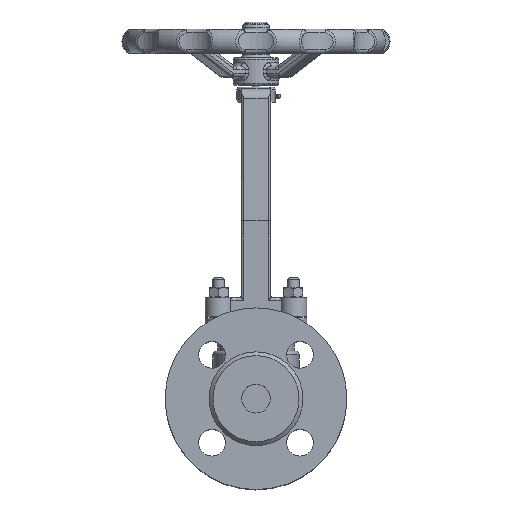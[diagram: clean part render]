
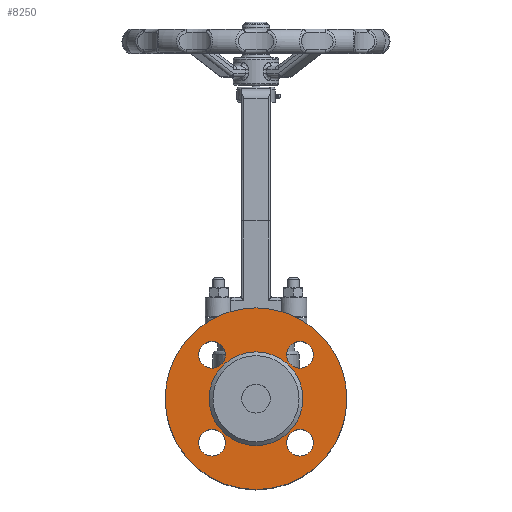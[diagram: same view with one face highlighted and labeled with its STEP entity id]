
A CAD part, top view. The second image highlights one B-rep face of the part: STEP entity #8250.
In plain terms, the highlighted planar face has unit normal (0, 0, 1).
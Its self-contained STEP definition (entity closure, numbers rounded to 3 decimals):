
#8250=ADVANCED_FACE('',(#15998,#16000,#16002,#16004,#16006,#16008),#16010,.F.);
#15998=FACE_BOUND('',#15999,.T.);
#15999=EDGE_LOOP('',(#22570));
#16000=FACE_BOUND('',#16001,.T.);
#16001=EDGE_LOOP('',(#22571));
#16002=FACE_BOUND('',#16003,.T.);
#16003=EDGE_LOOP('',(#22572));
#16004=FACE_BOUND('',#16005,.T.);
#16005=EDGE_LOOP('',(#22573));
#16006=FACE_BOUND('',#16007,.T.);
#16007=EDGE_LOOP('',(#22574));
#16008=FACE_BOUND('',#16009,.T.);
#16009=EDGE_LOOP('',(#22575));
#16010=PLANE('',#16011);
#16011=AXIS2_PLACEMENT_3D('',#16012,#16013,#16014);
#16012=CARTESIAN_POINT('',(0.,0.,63.));
#16013=DIRECTION('',(0.,0.,-1.));
#16014=DIRECTION('',(0.,1.,0.));
#22570=ORIENTED_EDGE('',*,*,#24923,.T.);
#22571=ORIENTED_EDGE('',*,*,#24924,.T.);
#22572=ORIENTED_EDGE('',*,*,#24925,.T.);
#22573=ORIENTED_EDGE('',*,*,#25053,.F.);
#22574=ORIENTED_EDGE('',*,*,#24926,.T.);
#22575=ORIENTED_EDGE('',*,*,#24927,.T.);
#24923=EDGE_CURVE('',#28651,#28651,#28652,.T.);
#24924=EDGE_CURVE('',#28653,#28653,#28654,.T.);
#24925=EDGE_CURVE('',#28655,#28655,#28656,.T.);
#24926=EDGE_CURVE('',#28657,#28657,#28658,.T.);
#24927=EDGE_CURVE('',#28659,#28659,#28660,.T.);
#25053=EDGE_CURVE('',#28797,#28797,#28798,.T.);
#28651=VERTEX_POINT('',#57616);
#28652=CIRCLE('',#57617,47.5);
#28653=VERTEX_POINT('',#57621);
#28654=CIRCLE('',#57622,7.);
#28655=VERTEX_POINT('',#57626);
#28656=CIRCLE('',#57627,7.);
#28657=VERTEX_POINT('',#57631);
#28658=CIRCLE('',#57632,7.);
#28659=VERTEX_POINT('',#57636);
#28660=CIRCLE('',#57637,7.);
#28797=VERTEX_POINT('',#66606);
#28798=CIRCLE('',#66607,24.5);
#57616=CARTESIAN_POINT('',(0.,47.5,63.));
#57617=AXIS2_PLACEMENT_3D('',#57618,#57619,#57620);
#57618=CARTESIAN_POINT('',(0.,0.,63.));
#57619=DIRECTION('',(0.,0.,1.));
#57620=DIRECTION('',(0.,1.,0.));
#57621=CARTESIAN_POINT('',(22.981,-15.981,63.));
#57622=AXIS2_PLACEMENT_3D('',#57623,#57624,#57625);
#57623=CARTESIAN_POINT('',(22.981,-22.981,63.));
#57624=DIRECTION('',(0.,0.,-1.));
#57625=DIRECTION('',(0.,1.,0.));
#57626=CARTESIAN_POINT('',(-22.981,15.981,63.));
#57627=AXIS2_PLACEMENT_3D('',#57628,#57629,#57630);
#57628=CARTESIAN_POINT('',(-22.981,22.981,63.));
#57629=DIRECTION('',(0.,0.,-1.));
#57630=DIRECTION('',(0.,-1.,0.));
#57631=CARTESIAN_POINT('',(15.981,22.981,63.));
#57632=AXIS2_PLACEMENT_3D('',#57633,#57634,#57635);
#57633=CARTESIAN_POINT('',(22.981,22.981,63.));
#57634=DIRECTION('',(0.,0.,-1.));
#57635=DIRECTION('',(-1.,0.,0.));
#57636=CARTESIAN_POINT('',(-15.981,-22.981,63.));
#57637=AXIS2_PLACEMENT_3D('',#57638,#57639,#57640);
#57638=CARTESIAN_POINT('',(-22.981,-22.981,63.));
#57639=DIRECTION('',(0.,0.,-1.));
#57640=DIRECTION('',(1.,0.,0.));
#66606=CARTESIAN_POINT('',(0.,24.5,63.));
#66607=AXIS2_PLACEMENT_3D('',#66608,#66609,#66610);
#66608=CARTESIAN_POINT('',(0.,0.,63.));
#66609=DIRECTION('',(0.,0.,1.));
#66610=DIRECTION('',(0.,1.,0.));
